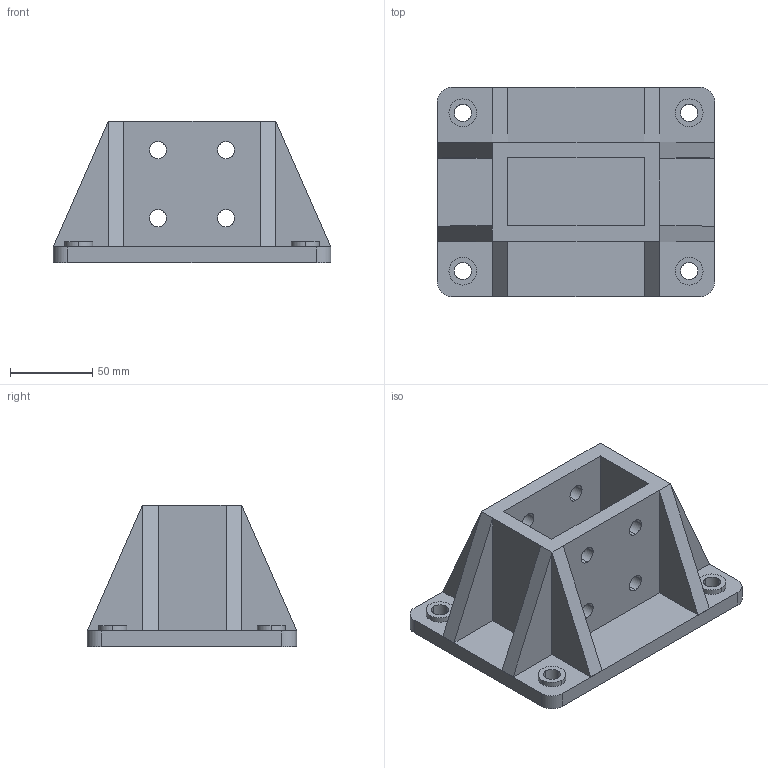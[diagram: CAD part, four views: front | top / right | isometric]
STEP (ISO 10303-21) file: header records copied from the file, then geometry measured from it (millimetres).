
FILE_DESCRIPTION(('TurboCAD Mac Pro'),'Build 980');
FILE_NAME('F20PU-5903.stp',' ',(''),(''),'ACIS Interop','IMSI','TurboCAD Mac Pro BY IMSI, INCORPORATED');
FILE_SCHEMA(('automotive_design'));
Length unit declared in the file: inch
Products named in the file (1): 1
Bounding box: 168.28 x 127.04 x 85.72 mm (x, y, z)
Volume: 499312.5 mm3; surface area: 116540.9 mm2
Topology: 1 solids, 1 shells, 114 faces, 302 edges, 196 vertices
Faces by surface type: bspline 68, plane 46
Entity records: 4830 total; most frequent: CARTESIAN_POINT 1497, ORIENTED_EDGE 604, EDGE_CURVE 302, DIRECTION 260, VERTEX_POINT 196, LINE 166, VECTOR 166, EDGE_LOOP 144
